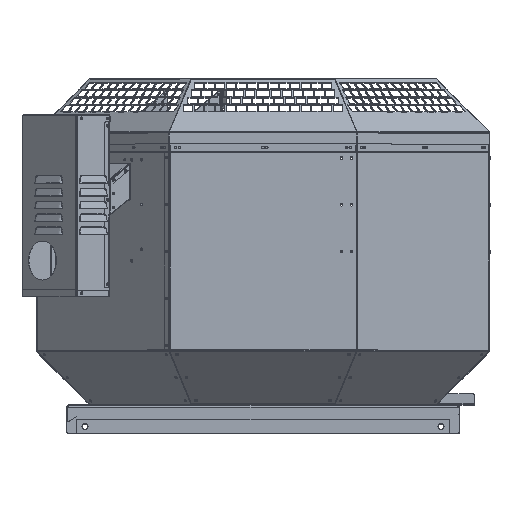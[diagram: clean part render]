
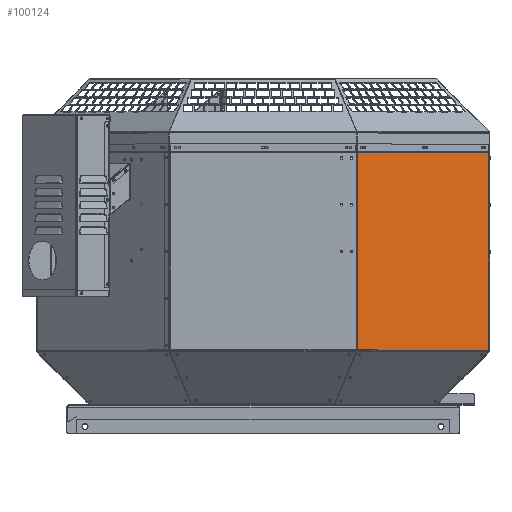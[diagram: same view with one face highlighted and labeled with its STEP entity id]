
A CAD part, top view. The second image highlights one B-rep face of the part: STEP entity #100124.
In plain terms, the highlighted planar face has unit normal (0.707, 0, 0.707).
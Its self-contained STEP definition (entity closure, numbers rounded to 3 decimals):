
#109 = AXIS2_PLACEMENT_3D ( 'NONE', #27426, #61969, #142040 ) ;
#1236 = DIRECTION ( 'NONE',  ( 0., -1., 0. ) ) ;
#2559 = LINE ( 'NONE', #27445, #90265 ) ;
#5412 = EDGE_CURVE ( 'NONE', #73578, #45522, #44741, .T. ) ;
#6773 = VERTEX_POINT ( 'NONE', #36609 ) ;
#7827 = CARTESIAN_POINT ( 'NONE',  ( 150.786, 422.408, 359.745 ) ) ;
#9162 = EDGE_CURVE ( 'NONE', #57857, #79917, #120723, .T. ) ;
#11539 = EDGE_CURVE ( 'NONE', #83944, #141477, #24936, .T. ) ;
#11687 = DIRECTION ( 'NONE',  ( 0.707, 0., -0.707 ) ) ;
#12119 = CARTESIAN_POINT ( 'NONE',  ( 150.468, 436.408, 360.063 ) ) ;
#16163 = ORIENTED_EDGE ( 'NONE', *, *, #88756, .F. ) ;
#18863 = DIRECTION ( 'NONE',  ( -0.707, 0., 0.707 ) ) ;
#22442 = CARTESIAN_POINT ( 'NONE',  ( 150.786, 422.416, 359.745 ) ) ;
#24659 = CARTESIAN_POINT ( 'NONE',  ( 359.745, 422.408, 150.786 ) ) ;
#24936 = LINE ( 'NONE', #117225, #51783 ) ;
#27426 = CARTESIAN_POINT ( 'NONE',  ( 360.707, 436.408, 149.824 ) ) ;
#27445 = CARTESIAN_POINT ( 'NONE',  ( 150.786, 436.408, 359.745 ) ) ;
#27481 = ORIENTED_EDGE ( 'NONE', *, *, #45845, .F. ) ;
#33077 = CARTESIAN_POINT ( 'NONE',  ( 359.745, 436.408, 150.786 ) ) ;
#36609 = CARTESIAN_POINT ( 'NONE',  ( 360.063, 108.408, 150.468 ) ) ;
#38865 = VERTEX_POINT ( 'NONE', #62077 ) ;
#40850 = VECTOR ( 'NONE', #18863, 1000. ) ;
#44381 = CARTESIAN_POINT ( 'NONE',  ( 150.468, 422.408, 360.063 ) ) ;
#44741 = LINE ( 'NONE', #12119, #102051 ) ;
#45522 = VERTEX_POINT ( 'NONE', #87893 ) ;
#45845 = EDGE_CURVE ( 'NONE', #6773, #45522, #143257, .T. ) ;
#48627 = CARTESIAN_POINT ( 'NONE',  ( 360.063, 422.408, 150.468 ) ) ;
#51783 = VECTOR ( 'NONE', #126821, 1000. ) ;
#54682 = CARTESIAN_POINT ( 'NONE',  ( 359.745, 422.416, 150.786 ) ) ;
#55512 = VECTOR ( 'NONE', #57267, 1000. ) ;
#57267 = DIRECTION ( 'NONE',  ( -0.707, 0., 0.707 ) ) ;
#57606 = EDGE_CURVE ( 'NONE', #57857, #38865, #2559, .T. ) ;
#57857 = VERTEX_POINT ( 'NONE', #22442 ) ;
#61969 = DIRECTION ( 'NONE',  ( 0.707, 0., 0.707 ) ) ;
#62077 = CARTESIAN_POINT ( 'NONE',  ( 150.786, 422.408, 359.745 ) ) ;
#63590 = ORIENTED_EDGE ( 'NONE', *, *, #97228, .T. ) ;
#64417 = EDGE_CURVE ( 'NONE', #38865, #73578, #124982, .T. ) ;
#65144 = CARTESIAN_POINT ( 'NONE',  ( 360.063, 436.408, 150.468 ) ) ;
#69806 = VECTOR ( 'NONE', #113120, 1000. ) ;
#70682 = FACE_OUTER_BOUND ( 'NONE', #99887, .T. ) ;
#73578 = VERTEX_POINT ( 'NONE', #44381 ) ;
#76615 = DIRECTION ( 'NONE',  ( 0., -1., 0. ) ) ;
#76886 = CARTESIAN_POINT ( 'NONE',  ( 360.707, 422.416, 149.824 ) ) ;
#77017 = VECTOR ( 'NONE', #76615, 1000. ) ;
#79917 = VERTEX_POINT ( 'NONE', #54682 ) ;
#83944 = VERTEX_POINT ( 'NONE', #48627 ) ;
#84185 = LINE ( 'NONE', #65144, #77017 ) ;
#87893 = CARTESIAN_POINT ( 'NONE',  ( 150.468, 108.408, 360.063 ) ) ;
#88756 = EDGE_CURVE ( 'NONE', #83944, #6773, #84185, .T. ) ;
#90265 = VECTOR ( 'NONE', #130495, 1000. ) ;
#97228 = EDGE_CURVE ( 'NONE', #141477, #79917, #127028, .T. ) ;
#99887 = EDGE_LOOP ( 'NONE', ( #147741, #140653, #137935, #124595, #27481, #16163, #101082, #63590 ) ) ;
#100124 = ADVANCED_FACE ( 'NONE', ( #70682 ), #130475, .T. ) ;
#101082 = ORIENTED_EDGE ( 'NONE', *, *, #11539, .T. ) ;
#102051 = VECTOR ( 'NONE', #1236, 1000. ) ;
#113120 = DIRECTION ( 'NONE',  ( 0., 1., 0. ) ) ;
#114330 = CARTESIAN_POINT ( 'NONE',  ( 360.707, 108.408, 149.824 ) ) ;
#117225 = CARTESIAN_POINT ( 'NONE',  ( 359.745, 422.408, 150.786 ) ) ;
#120723 = LINE ( 'NONE', #76886, #140428 ) ;
#124595 = ORIENTED_EDGE ( 'NONE', *, *, #5412, .T. ) ;
#124982 = LINE ( 'NONE', #7827, #40850 ) ;
#126821 = DIRECTION ( 'NONE',  ( -0.707, 0., 0.707 ) ) ;
#127028 = LINE ( 'NONE', #33077, #69806 ) ;
#130475 = PLANE ( 'NONE',  #109 ) ;
#130495 = DIRECTION ( 'NONE',  ( 0., -1., 0. ) ) ;
#137935 = ORIENTED_EDGE ( 'NONE', *, *, #64417, .T. ) ;
#140428 = VECTOR ( 'NONE', #11687, 1000. ) ;
#140653 = ORIENTED_EDGE ( 'NONE', *, *, #57606, .T. ) ;
#141477 = VERTEX_POINT ( 'NONE', #24659 ) ;
#142040 = DIRECTION ( 'NONE',  ( 0.707, 0., -0.707 ) ) ;
#143257 = LINE ( 'NONE', #114330, #55512 ) ;
#147741 = ORIENTED_EDGE ( 'NONE', *, *, #9162, .F. ) ;
